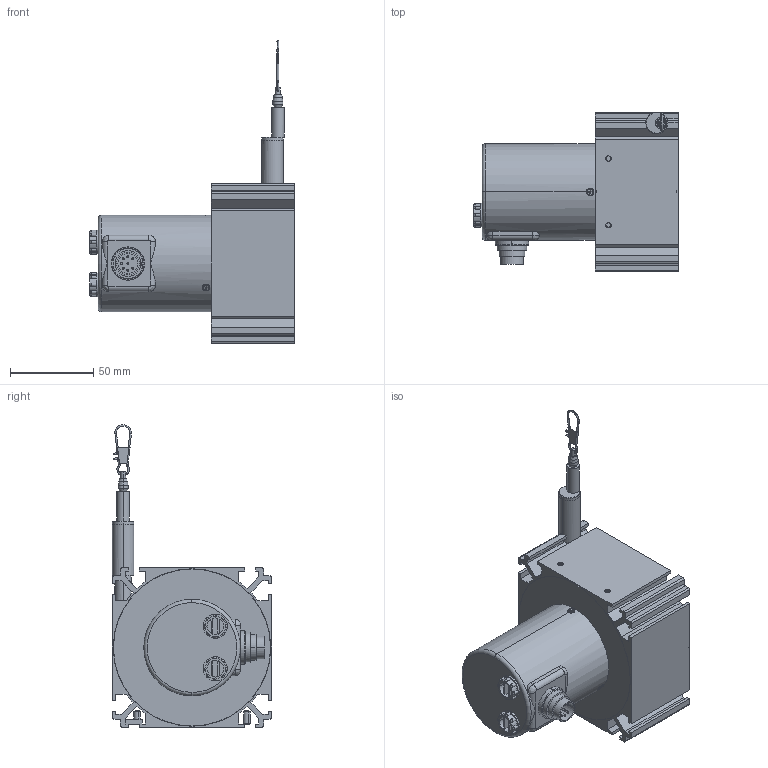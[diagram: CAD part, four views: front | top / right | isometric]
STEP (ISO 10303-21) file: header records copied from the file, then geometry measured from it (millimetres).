
FILE_DESCRIPTION((''),'2;1');
FILE_NAME('','2007-03-21T',(''),(''),'PRO/ENGINEER BY PARAMETRIC TECHNOLOGY CORPORATION, 2003250','PRO/ENGINEER BY PARAMETRIC TECHNOLOGY CORPORATION, 2003250','');
FILE_SCHEMA(('CONFIG_CONTROL_DESIGN'));
Length unit declared in the file: millimetre
Bounding box: 123 x 96 x 181.99 mm (x, y, z)
Volume: 222330.9 mm3; surface area: 112345 mm2
Topology: 1 solids, 8 shells, 760 faces, 2014 edges, 1304 vertices
Faces by surface type: plane 319, cylinder 295, cone 76, torus 38, bspline 30, sphere 2
Entity records: 25427 total; most frequent: CARTESIAN_POINT 6313, DIRECTION 4114, ORIENTED_EDGE 3948, EDGE_CURVE 1974, AXIS2_PLACEMENT_3D 1578, VERTEX_POINT 1304, VECTOR 958, LINE 958
